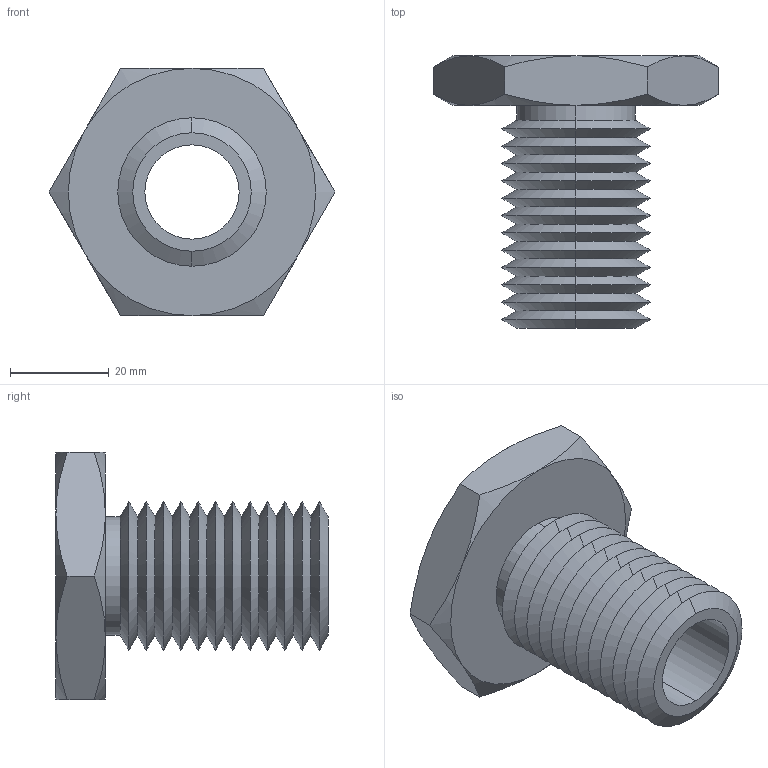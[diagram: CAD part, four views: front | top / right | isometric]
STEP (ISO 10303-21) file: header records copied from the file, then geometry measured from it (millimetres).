
FILE_DESCRIPTION (( 'STEP AP203' ), '1' );
FILE_NAME ('63302.W0030_0,75 UNC-10.step', '2013-12-08T11:08:08', ( 'User' ), ( '' ), 'SwSTEP 2.0', 'SolidWorks 2009', '' );
FILE_SCHEMA (( 'CONFIG_CONTROL_DESIGN' ));
Length unit declared in the file: millimetre
Products named in the file (1): 63302.W0030_0,75 UNC-10
Bounding box: 57.73 x 55 x 50 mm (x, y, z)
Volume: 30935.8 mm3; surface area: 15842.7 mm2
Topology: 1 solids, 1 shells, 75 faces, 154 edges, 82 vertices
Faces by surface type: cone 62, plane 9, cylinder 4
Entity records: 2139 total; most frequent: CARTESIAN_POINT 496, DIRECTION 352, ORIENTED_EDGE 308, EDGE_CURVE 154, AXIS2_PLACEMENT_3D 146, VERTEX_POINT 82, EDGE_LOOP 78, ADVANCED_FACE 75
